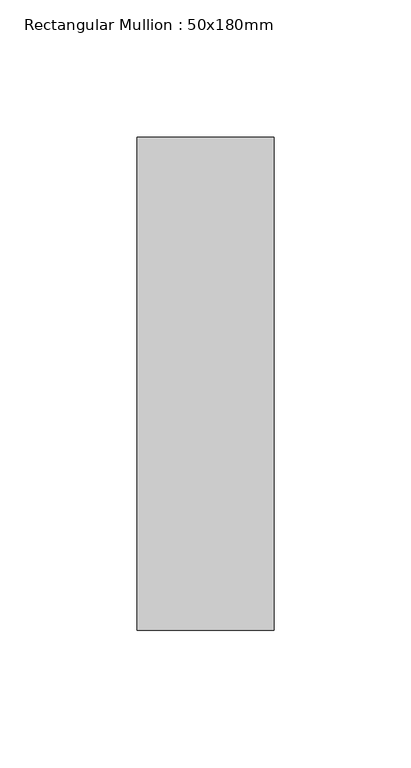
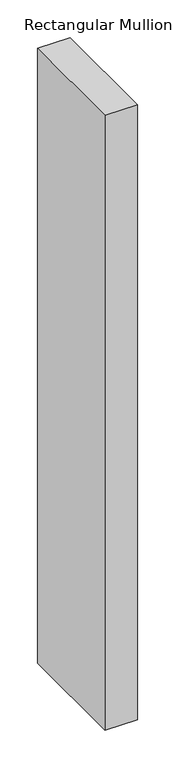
"""IFC4 building model written with IfcOpenShell, lengths in millimetres: member geometry, Rectangular Mullion : 50x180mm."""

from ifc_helpers import new_model, si_unit, frame, origin, place, context, project, spatial, polyline, outline, extrude, source, transform, mapped, element, save


def rectangular_mullion_50x180mm_b6846536(model_context):
    return source(origin(), model_context, "Body", "SweptSolid", [
        extrude(outline(polyline([(0.0, 90.0), (0.0, -90.0), (-50.0, -90.0), (-50.0, 90.0), (0.0, 90.0)])), frame((0.0, 0.0, -1000.0), z_axis=(0.0, 0.0, 1.0), x_axis=(1.0, 0.0, 0.0)), (0.0, 0.0, 1.0), 1000.0),
    ])


if __name__ == "__main__":
    model = new_model("IFC4")
    model_context = context("Model", 3, world=origin())
    ifc_project = project(units=[si_unit("LENGTHUNIT", "METRE", prefix="MILLI")], contexts=[model_context])
    site = spatial("IfcSite", under=ifc_project)
    building = spatial("IfcBuilding", under=site)
    placement = place(None, origin())
    rectangular_mullion_50x180mm_shape = rectangular_mullion_50x180mm_b6846536(model_context)
    element("IfcMember", 1, ObjectType="Rectangular Mullion : 50x180mm", at=placement, inside=building, context=model_context, shape_type="MappedRepresentation", body=[
        mapped(rectangular_mullion_50x180mm_shape, transform((0.0, 0.0, 0.0), x_axis=(1.0, 0.0, 0.0), y_axis=(0.0, 1.0, 0.0), z_axis=(0.0, 0.0, 1.0))),
    ])
    save(model, "model.ifc")
